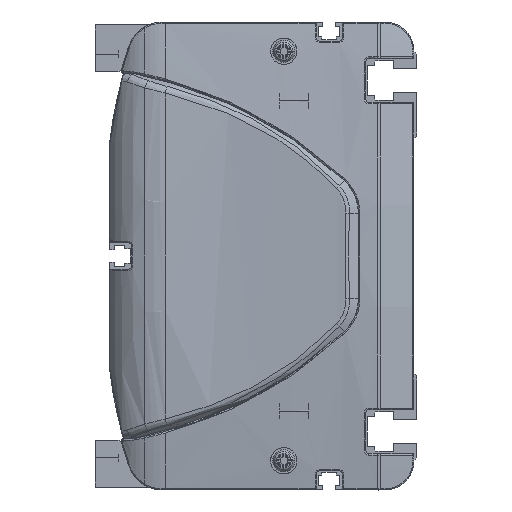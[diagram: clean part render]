
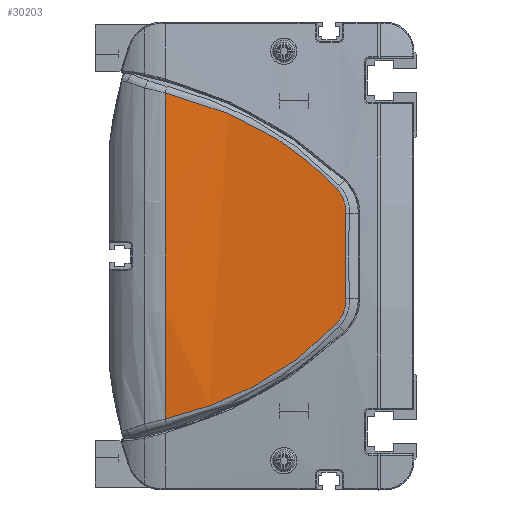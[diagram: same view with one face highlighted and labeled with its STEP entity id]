
A CAD part, left-side view. The second image highlights one B-rep face of the part: STEP entity #30203.
In plain terms, the highlighted cylindrical face has radius 600 mm (diameter 1200 mm), a partial arc.
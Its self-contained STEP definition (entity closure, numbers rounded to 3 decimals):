
#9307=CARTESIAN_POINT('',(-12.406,86.,55.736));
#9308=CARTESIAN_POINT('',(-12.529,80.495,54.41));
#9309=CARTESIAN_POINT('',(-12.828,69.636,51.114));
#9310=CARTESIAN_POINT('',(-13.389,54.079,44.179));
#9311=CARTESIAN_POINT('',(-14.01,39.709,34.979));
#9312=CARTESIAN_POINT('',(-14.395,31.353,27.243));
#9313=CARTESIAN_POINT('',(-14.555,27.451,23.113));
#9315=CARTESIAN_POINT('',(-14.555,27.451,23.113));
#9316=CARTESIAN_POINT('',(-14.641,25.336,20.875));
#9317=CARTESIAN_POINT('',(-14.745,24.202,17.745));
#9318=CARTESIAN_POINT('',(-14.821,24.351,14.67));
#9320=CARTESIAN_POINT('',(-14.821,24.351,14.67));
#9321=CARTESIAN_POINT('',(-14.9,24.51,11.413));
#9322=CARTESIAN_POINT('',(-15.007,24.721,4.895));
#9323=CARTESIAN_POINT('',(-15.007,24.721,
-4.895));
#9324=CARTESIAN_POINT('',(-14.9,24.51,
-11.413));
#9325=CARTESIAN_POINT('',(-14.821,24.351,
-14.67));
#9327=CARTESIAN_POINT('',(-14.821,24.351,
-14.67));
#9328=CARTESIAN_POINT('',(-14.745,24.202,
-17.745));
#9329=CARTESIAN_POINT('',(-14.641,25.337,
-20.876));
#9330=CARTESIAN_POINT('',(-14.555,27.451,
-23.113));
#9332=CARTESIAN_POINT('',(-14.555,27.451,
-23.113));
#9333=CARTESIAN_POINT('',(-14.395,31.353,
-27.243));
#9334=CARTESIAN_POINT('',(-14.01,39.709,
-34.979));
#9335=CARTESIAN_POINT('',(-13.389,54.079,
-44.179));
#9336=CARTESIAN_POINT('',(-12.828,69.636,
-51.114));
#9337=CARTESIAN_POINT('',(-12.529,80.495,
-54.41));
#9338=CARTESIAN_POINT('',(-12.406,86.,
-55.736));
#9340=CARTESIAN_POINT('',(585.,86.,0.));
#9341=DIRECTION('',(0.,1.,0.));
#9342=DIRECTION('',(-0.996,0.,-0.093));
#9343=AXIS2_PLACEMENT_3D('',#9340,#9341,#9342);
#9356=CARTESIAN_POINT('',(-12.406,86.,55.736));
#14520=VERTEX_POINT('',#9356);
#14521=CARTESIAN_POINT('',(-12.406,86.,
-55.736));
#14522=VERTEX_POINT('',#14521);
#14572=VERTEX_POINT('',#9313);
#14573=VERTEX_POINT('',#9318);
#14574=VERTEX_POINT('',#9325);
#14575=VERTEX_POINT('',#9330);
#30185=CARTESIAN_POINT('',(585.,87.45,0.));
#30186=DIRECTION('',(0.,-1.,0.));
#30187=DIRECTION('',(0.,0.,-1.));
#30188=AXIS2_PLACEMENT_3D('',#30185,#30186,#30187);
#30189=CYLINDRICAL_SURFACE('',#30188,600.);
#30191=ORIENTED_EDGE('',*,*,#30190,.T.);
#30193=ORIENTED_EDGE('',*,*,#30192,.T.);
#30194=ORIENTED_EDGE('',*,*,#30175,.T.);
#30196=ORIENTED_EDGE('',*,*,#30195,.T.);
#30198=ORIENTED_EDGE('',*,*,#30197,.T.);
#30200=ORIENTED_EDGE('',*,*,#30199,.T.);
#30201=EDGE_LOOP('',(#30191,#30193,#30194,#30196,#30198,#30200));
#30202=FACE_OUTER_BOUND('',#30201,.F.);
#30203=ADVANCED_FACE('',(#30202),#30189,.T.);
#9314=B_SPLINE_CURVE_WITH_KNOTS('',3,(#9307,#9308,#9309,#9310,#9311,#9312,
#9313),.UNSPECIFIED.,.F.,.F.,(4,1,1,1,4),(0.,0.25,0.5,0.75,1.),
.UNSPECIFIED.);
#9319=B_SPLINE_CURVE_WITH_KNOTS('',3,(#9315,#9316,#9317,#9318),.UNSPECIFIED.,
.F.,.F.,(4,4),(0.,1.),.UNSPECIFIED.);
#9326=B_SPLINE_CURVE_WITH_KNOTS('',3,(#9320,#9321,#9322,#9323,#9324,#9325),
.UNSPECIFIED.,.F.,.F.,(4,1,1,4),(0.,0.333,0.667,1.),
.UNSPECIFIED.);
#9331=B_SPLINE_CURVE_WITH_KNOTS('',3,(#9327,#9328,#9329,#9330),.UNSPECIFIED.,
.F.,.F.,(4,4),(0.,1.),.UNSPECIFIED.);
#9339=B_SPLINE_CURVE_WITH_KNOTS('',3,(#9332,#9333,#9334,#9335,#9336,#9337,
#9338),.UNSPECIFIED.,.F.,.F.,(4,1,1,1,4),(0.,0.25,0.5,0.75,1.),
.UNSPECIFIED.);
#9344=CIRCLE('',#9343,600.);
#30175=EDGE_CURVE('',#14573,#14574,#9326,.T.);
#30190=EDGE_CURVE('',#14520,#14572,#9314,.T.);
#30192=EDGE_CURVE('',#14572,#14573,#9319,.T.);
#30195=EDGE_CURVE('',#14574,#14575,#9331,.T.);
#30197=EDGE_CURVE('',#14575,#14522,#9339,.T.);
#30199=EDGE_CURVE('',#14522,#14520,#9344,.T.);
